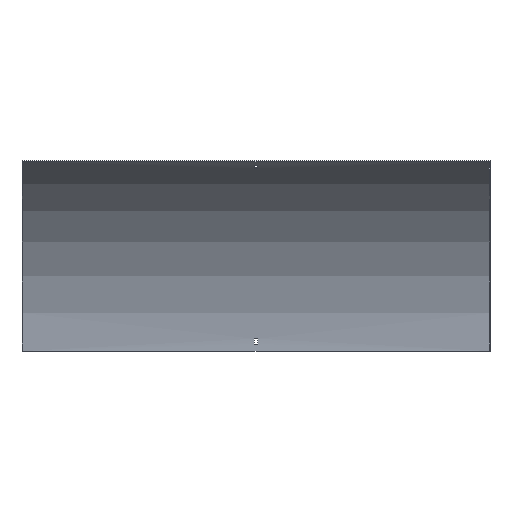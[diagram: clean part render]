
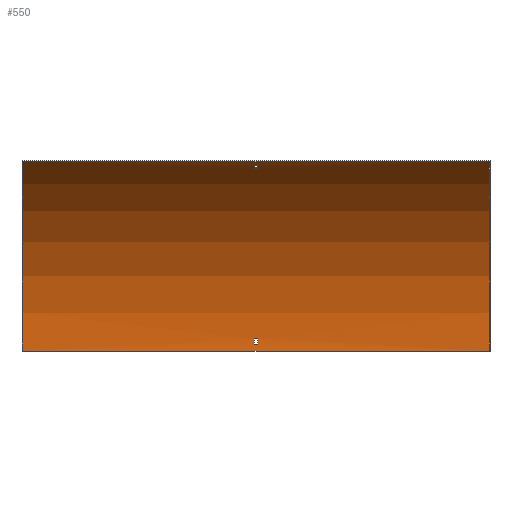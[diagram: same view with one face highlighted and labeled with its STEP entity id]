
A CAD part, front view. The second image highlights one B-rep face of the part: STEP entity #550.
In plain terms, the highlighted cylindrical face has radius 375 mm (diameter 750 mm), a partial arc.
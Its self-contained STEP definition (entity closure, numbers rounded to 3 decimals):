
#13 = CARTESIAN_POINT ( 'NONE',  ( 3.25, -2.088, 21. ) ) ;
#15 = ORIENTED_EDGE ( 'NONE', *, *, #409, .T. ) ;
#18 = VECTOR ( 'NONE', #552, 1000. ) ;
#21 = EDGE_LOOP ( 'NONE', ( #249, #189, #318, #447 ) ) ;
#28 = DIRECTION ( 'NONE',  ( 0., 0., 1. ) ) ;
#32 = FACE_BOUND ( 'NONE', #216, .T. ) ;
#33 = CARTESIAN_POINT ( 'NONE',  ( 401.5, -2.088, 21. ) ) ;
#37 = DIRECTION ( 'NONE',  ( 0., 0., 1. ) ) ;
#41 = DIRECTION ( 'NONE',  ( 1., 0., 0. ) ) ;
#48 = DIRECTION ( 'NONE',  ( 1., 0., 0. ) ) ;
#66 = CARTESIAN_POINT ( 'NONE',  ( -3.25, -178.704, 318.593 ) ) ;
#71 = ORIENTED_EDGE ( 'NONE', *, *, #197, .F. ) ;
#74 = VECTOR ( 'NONE', #467, 1000. ) ;
#78 = DIRECTION ( 'NONE',  ( -1., 0., 0. ) ) ;
#83 = FACE_OUTER_BOUND ( 'NONE', #21, .T. ) ;
#93 = CIRCLE ( 'NONE', #411, 375. ) ;
#94 = DIRECTION ( 'NONE',  ( 1., 0., 0. ) ) ;
#98 = DIRECTION ( 'NONE',  ( 1., 0., 0. ) ) ;
#107 = CARTESIAN_POINT ( 'NONE',  ( 3.25, -1.692, 12. ) ) ;
#117 = DIRECTION ( 'NONE',  ( 0., 0., 1. ) ) ;
#118 = EDGE_CURVE ( 'NONE', #582, #208, #222, .T. ) ;
#123 = DIRECTION ( 'NONE',  ( 0., 0., -1. ) ) ;
#130 = CARTESIAN_POINT ( 'NONE',  ( 401.5, -376.5, 0. ) ) ;
#131 = CARTESIAN_POINT ( 'NONE',  ( -3.25, -376.5, 0. ) ) ;
#133 = CARTESIAN_POINT ( 'NONE',  ( 400., -189., 324.76 ) ) ;
#137 = AXIS2_PLACEMENT_3D ( 'NONE', #449, #234, #28 ) ;
#148 = EDGE_CURVE ( 'NONE', #522, #221, #581, .T. ) ;
#150 = CARTESIAN_POINT ( 'NONE',  ( 3.25, -171.108, 313.75 ) ) ;
#158 = VECTOR ( 'NONE', #165, 1000. ) ;
#165 = DIRECTION ( 'NONE',  ( -1., 0., 0. ) ) ;
#187 = LINE ( 'NONE', #366, #18 ) ;
#188 = AXIS2_PLACEMENT_3D ( 'NONE', #239, #243, #338 ) ;
#189 = ORIENTED_EDGE ( 'NONE', *, *, #274, .F. ) ;
#197 = EDGE_CURVE ( 'NONE', #577, #582, #590, .T. ) ;
#205 = LINE ( 'NONE', #384, #416 ) ;
#208 = VERTEX_POINT ( 'NONE', #267 ) ;
#212 = FACE_BOUND ( 'NONE', #434, .T. ) ;
#216 = EDGE_LOOP ( 'NONE', ( #15, #346, #303, #477 ) ) ;
#221 = VERTEX_POINT ( 'NONE', #418 ) ;
#222 = CIRCLE ( 'NONE', #473, 375. ) ;
#225 = VERTEX_POINT ( 'NONE', #356 ) ;
#226 = CYLINDRICAL_SURFACE ( 'NONE', #605, 375. ) ;
#234 = DIRECTION ( 'NONE',  ( -1., 0., 0. ) ) ;
#239 = CARTESIAN_POINT ( 'NONE',  ( 3.25, -376.5, 0. ) ) ;
#242 = EDGE_CURVE ( 'NONE', #262, #522, #563, .T. ) ;
#243 = DIRECTION ( 'NONE',  ( 1., 0., 0. ) ) ;
#249 = ORIENTED_EDGE ( 'NONE', *, *, #283, .F. ) ;
#252 = VERTEX_POINT ( 'NONE', #322 ) ;
#258 = EDGE_CURVE ( 'NONE', #450, #310, #284, .T. ) ;
#262 = VERTEX_POINT ( 'NONE', #413 ) ;
#267 = CARTESIAN_POINT ( 'NONE',  ( -3.25, -1.692, 12. ) ) ;
#274 = EDGE_CURVE ( 'NONE', #262, #252, #187, .T. ) ;
#283 = EDGE_CURVE ( 'NONE', #252, #221, #93, .T. ) ;
#284 = CIRCLE ( 'NONE', #137, 375. ) ;
#285 = DIRECTION ( 'NONE',  ( 0., 1., 0. ) ) ;
#293 = LINE ( 'NONE', #295, #74 ) ;
#295 = CARTESIAN_POINT ( 'NONE',  ( 401.5, -171.108, 313.75 ) ) ;
#303 = ORIENTED_EDGE ( 'NONE', *, *, #433, .T. ) ;
#304 = VECTOR ( 'NONE', #48, 1000. ) ;
#306 = CARTESIAN_POINT ( 'NONE',  ( 400., -189., 324.76 ) ) ;
#310 = VERTEX_POINT ( 'NONE', #150 ) ;
#311 = CARTESIAN_POINT ( 'NONE',  ( -3.25, -2.088, 21. ) ) ;
#318 = ORIENTED_EDGE ( 'NONE', *, *, #242, .T. ) ;
#321 = DIRECTION ( 'NONE',  ( -1., 0., 0. ) ) ;
#322 = CARTESIAN_POINT ( 'NONE',  ( -400., -1.5, 0. ) ) ;
#338 = DIRECTION ( 'NONE',  ( 0., 0., -1. ) ) ;
#346 = ORIENTED_EDGE ( 'NONE', *, *, #531, .T. ) ;
#356 = CARTESIAN_POINT ( 'NONE',  ( -3.25, -171.108, 313.75 ) ) ;
#359 = CARTESIAN_POINT ( 'NONE',  ( 400., -376.5, 0. ) ) ;
#360 = VERTEX_POINT ( 'NONE', #107 ) ;
#366 = CARTESIAN_POINT ( 'NONE',  ( 400., -1.5, 0. ) ) ;
#371 = LINE ( 'NONE', #513, #304 ) ;
#376 = EDGE_CURVE ( 'NONE', #360, #577, #385, .T. ) ;
#384 = CARTESIAN_POINT ( 'NONE',  ( 401.5, -178.704, 318.593 ) ) ;
#385 = CIRCLE ( 'NONE', #188, 375. ) ;
#386 = EDGE_CURVE ( 'NONE', #208, #360, #371, .T. ) ;
#393 = ORIENTED_EDGE ( 'NONE', *, *, #376, .F. ) ;
#396 = CARTESIAN_POINT ( 'NONE',  ( -3.25, -376.5, 0. ) ) ;
#399 = AXIS2_PLACEMENT_3D ( 'NONE', #359, #41, #123 ) ;
#409 = EDGE_CURVE ( 'NONE', #310, #225, #293, .T. ) ;
#411 = AXIS2_PLACEMENT_3D ( 'NONE', #561, #98, #458 ) ;
#413 = CARTESIAN_POINT ( 'NONE',  ( 400., -1.5, 0. ) ) ;
#416 = VECTOR ( 'NONE', #525, 1000. ) ;
#418 = CARTESIAN_POINT ( 'NONE',  ( -400., -189., 324.76 ) ) ;
#433 = EDGE_CURVE ( 'NONE', #591, #450, #205, .T. ) ;
#434 = EDGE_LOOP ( 'NONE', ( #553, #71, #393, #508 ) ) ;
#447 = ORIENTED_EDGE ( 'NONE', *, *, #148, .T. ) ;
#449 = CARTESIAN_POINT ( 'NONE',  ( 3.25, -376.5, 0. ) ) ;
#450 = VERTEX_POINT ( 'NONE', #594 ) ;
#452 = VECTOR ( 'NONE', #78, 1000. ) ;
#458 = DIRECTION ( 'NONE',  ( 0., 0., -1. ) ) ;
#467 = DIRECTION ( 'NONE',  ( -1., 0., 0. ) ) ;
#473 = AXIS2_PLACEMENT_3D ( 'NONE', #396, #588, #117 ) ;
#477 = ORIENTED_EDGE ( 'NONE', *, *, #258, .T. ) ;
#508 = ORIENTED_EDGE ( 'NONE', *, *, #386, .F. ) ;
#513 = CARTESIAN_POINT ( 'NONE',  ( 401.5, -1.692, 12. ) ) ;
#521 = AXIS2_PLACEMENT_3D ( 'NONE', #131, #94, #285 ) ;
#522 = VERTEX_POINT ( 'NONE', #133 ) ;
#525 = DIRECTION ( 'NONE',  ( 1., 0., 0. ) ) ;
#531 = EDGE_CURVE ( 'NONE', #225, #591, #540, .T. ) ;
#540 = CIRCLE ( 'NONE', #521, 375. ) ;
#550 = ADVANCED_FACE ( 'NONE', ( #212, #83, #32 ), #226, .F. ) ;
#552 = DIRECTION ( 'NONE',  ( -1., 0., 0. ) ) ;
#553 = ORIENTED_EDGE ( 'NONE', *, *, #118, .F. ) ;
#561 = CARTESIAN_POINT ( 'NONE',  ( -400., -376.5, 0. ) ) ;
#563 = CIRCLE ( 'NONE', #399, 375. ) ;
#577 = VERTEX_POINT ( 'NONE', #13 ) ;
#581 = LINE ( 'NONE', #306, #158 ) ;
#582 = VERTEX_POINT ( 'NONE', #311 ) ;
#588 = DIRECTION ( 'NONE',  ( -1., 0., 0. ) ) ;
#590 = LINE ( 'NONE', #33, #452 ) ;
#591 = VERTEX_POINT ( 'NONE', #66 ) ;
#594 = CARTESIAN_POINT ( 'NONE',  ( 3.25, -178.704, 318.593 ) ) ;
#605 = AXIS2_PLACEMENT_3D ( 'NONE', #130, #321, #37 ) ;
